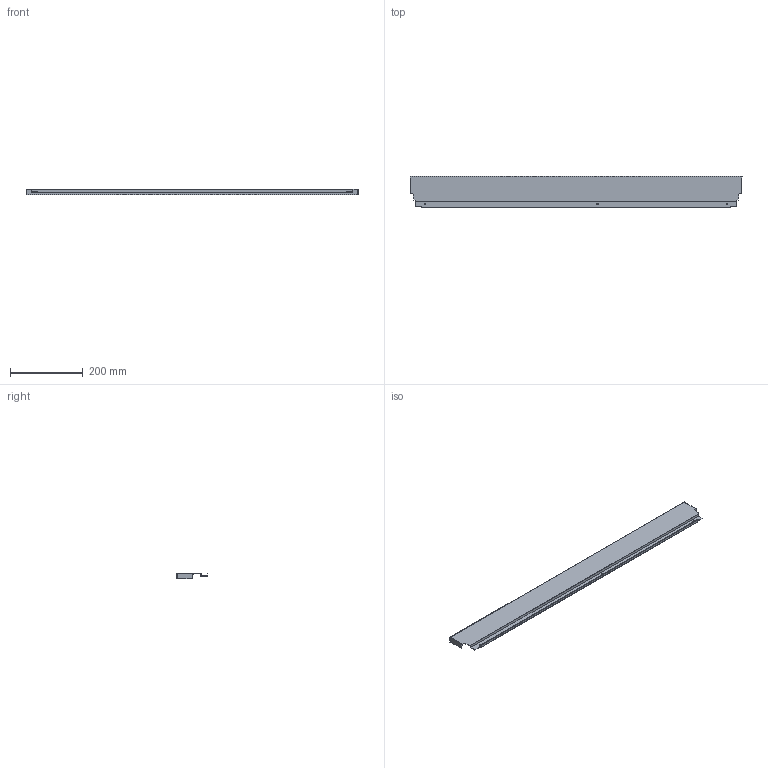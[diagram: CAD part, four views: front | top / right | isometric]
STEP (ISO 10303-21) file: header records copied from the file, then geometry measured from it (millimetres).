
FILE_DESCRIPTION (( 'STEP AP214' ), '1' );
FILE_NAME ('_DWD_XP Stahlrückwand_H86_KAB1000_S18.step', '2010-07-08T12:10:27', ( 'grass' ), ( '' ), 'SwSTEP 2.0', 'SolidWorks 2010', '' );
FILE_SCHEMA (( 'AUTOMOTIVE_DESIGN' ));
Length unit declared in the file: millimetre
Products named in the file (1): _DWD_XP Stahlrückwand_H86_KAB1000_S18
Bounding box: 915 x 85.79 x 16 mm (x, y, z)
Volume: 98181 mm3; surface area: 212964.4 mm2
Topology: 1 solids, 1 shells, 50 faces, 144 edges, 96 vertices
Faces by surface type: plane 44, cylinder 6
Entity records: 1666 total; most frequent: CARTESIAN_POINT 291, ORIENTED_EDGE 288, DIRECTION 258, EDGE_CURVE 144, LINE 132, VECTOR 132, VERTEX_POINT 96, AXIS2_PLACEMENT_3D 63
